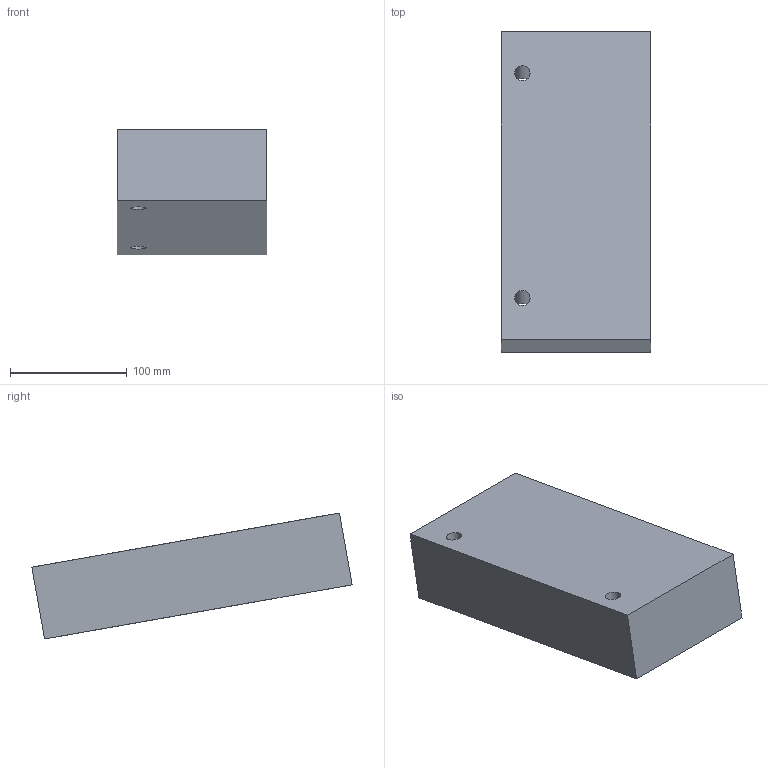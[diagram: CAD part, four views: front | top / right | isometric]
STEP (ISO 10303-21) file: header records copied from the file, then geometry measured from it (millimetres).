
FILE_DESCRIPTION(('golf model'),'2;1');
FILE_NAME('golf','',(''),(''),'golf_step_io','golf','');
FILE_SCHEMA(('AUTOMOTIVE_DESIGN { 1 0 10303 214 1 1 1 1 }'));
Length unit declared in the file: millimetre
Products named in the file (2): ASSEMBLY; counterweight.slab_5
Assembly tree (1 placements, depth 2):
  ASSEMBLY
    counterweight.slab_5
Bounding box: 128 x 274.78 x 108.09 mm (x, y, z)
Volume: 2126933.7 mm3; surface area: 122745.3 mm2
Topology: 1 solids, 1 shells, 8 faces, 18 edges, 12 vertices
Faces by surface type: plane 6, cylinder 2
Full cylindrical faces by diameter (mm): 13.2 x2
Entity records: 258 total; most frequent: DIRECTION 40, CARTESIAN_POINT 38, ORIENTED_EDGE 32, EDGE_CURVE 16, AXIS2_PLACEMENT_3D 14, EDGE_LOOP 14, VERTEX_POINT 12, VECTOR 12
